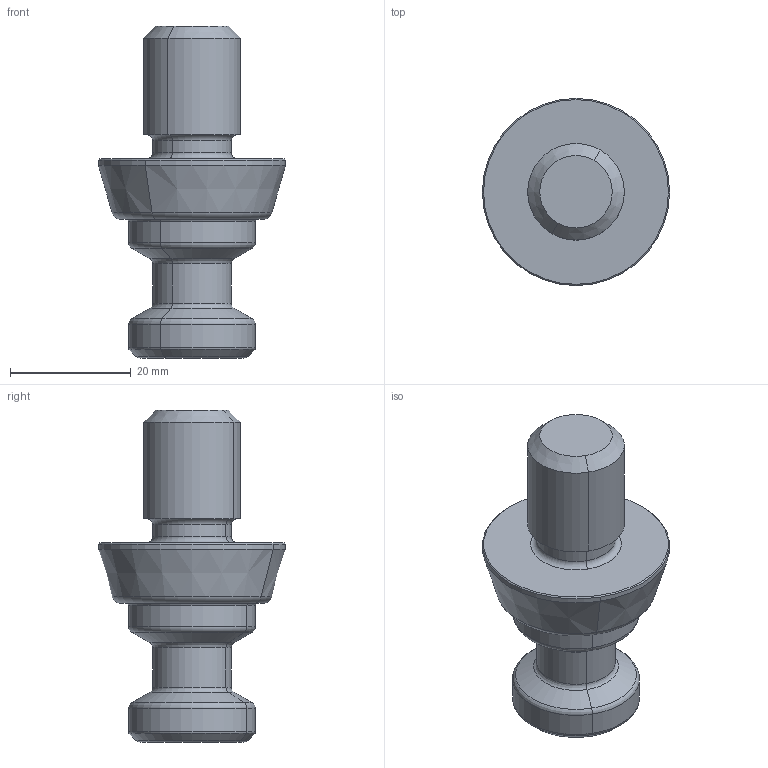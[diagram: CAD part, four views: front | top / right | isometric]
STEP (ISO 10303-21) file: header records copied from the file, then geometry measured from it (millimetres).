
FILE_DESCRIPTION (( 'STEP AP203' ), '1' );
FILE_NAME ('cp156-16001.STEP', '2021-10-25T23:36:27', ( '' ), ( '' ), 'SwSTEP 2.0', 'SolidWorks 2020', '' );
FILE_SCHEMA (( 'CONFIG_CONTROL_DESIGN' ));
Length unit declared in the file: millimetre
Products named in the file (1): cp156-16001
Bounding box: 31 x 31 x 55 mm (x, y, z)
Volume: 16038.7 mm3; surface area: 4833.9 mm2
Topology: 1 solids, 1 shells, 67 faces, 140 edges, 77 vertices
Faces by surface type: torus 20, plane 17, cone 16, cylinder 14
Entity records: 1863 total; most frequent: DIRECTION 348, CARTESIAN_POINT 331, ORIENTED_EDGE 276, AXIS2_PLACEMENT_3D 150, EDGE_CURVE 138, CIRCLE 82, VERTEX_POINT 77, EDGE_LOOP 71
